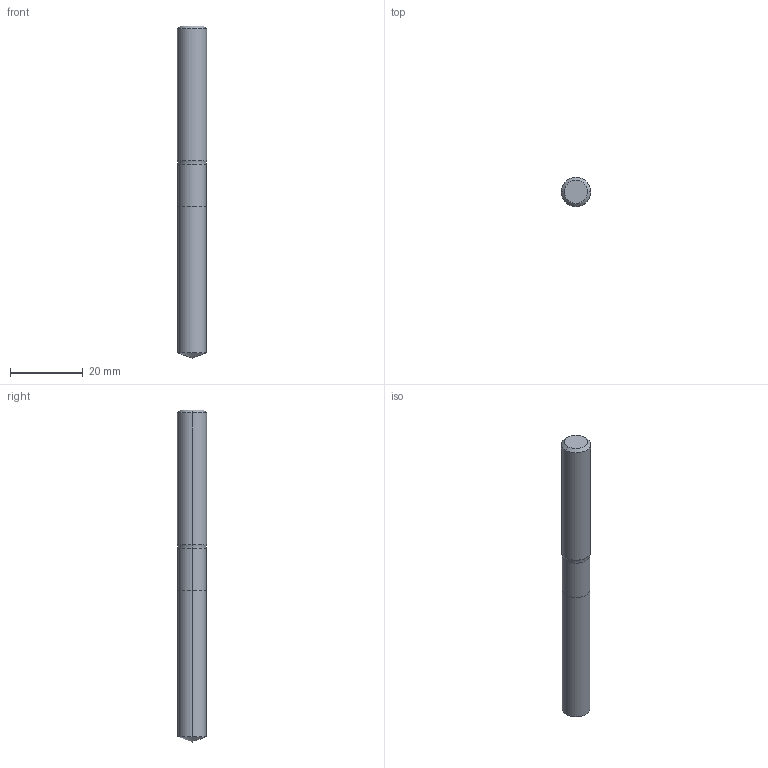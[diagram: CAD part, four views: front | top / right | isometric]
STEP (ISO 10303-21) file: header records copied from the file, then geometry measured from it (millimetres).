
FILE_DESCRIPTION (( 'STEP AP214' ), '1' );
FILE_NAME ('905.077.00_3D-model.step', '2022-02-24T17:47:05', ( '' ), ( '' ), 'SwSTEP 2.0', 'SolidWorks 2020', '' );
FILE_SCHEMA (( 'AUTOMOTIVE_DESIGN' ));
Length unit declared in the file: millimetre
Products named in the file (3): 905.077.00_3D-model; CUT-3D^Baugr63; NOCUT-3D^Baugr63
Assembly tree (2 placements, depth 2):
  905.077.00_3D-model
    CUT-3D^Baugr63
    NOCUT-3D^Baugr63
Bounding box: 8 x 8 x 91 mm (x, y, z)
Volume: 4324.4 mm3; surface area: 2383.2 mm2
Topology: 2 solids, 2 shells, 15 faces, 28 edges, 15 vertices
Faces by surface type: cylinder 6, cone 4, plane 3, torus 2
Entity records: 482 total; most frequent: DIRECTION 88, CARTESIAN_POINT 64, ORIENTED_EDGE 52, AXIS2_PLACEMENT_3D 39, EDGE_CURVE 26, CIRCLE 16, EDGE_LOOP 15, ADVANCED_FACE 15
